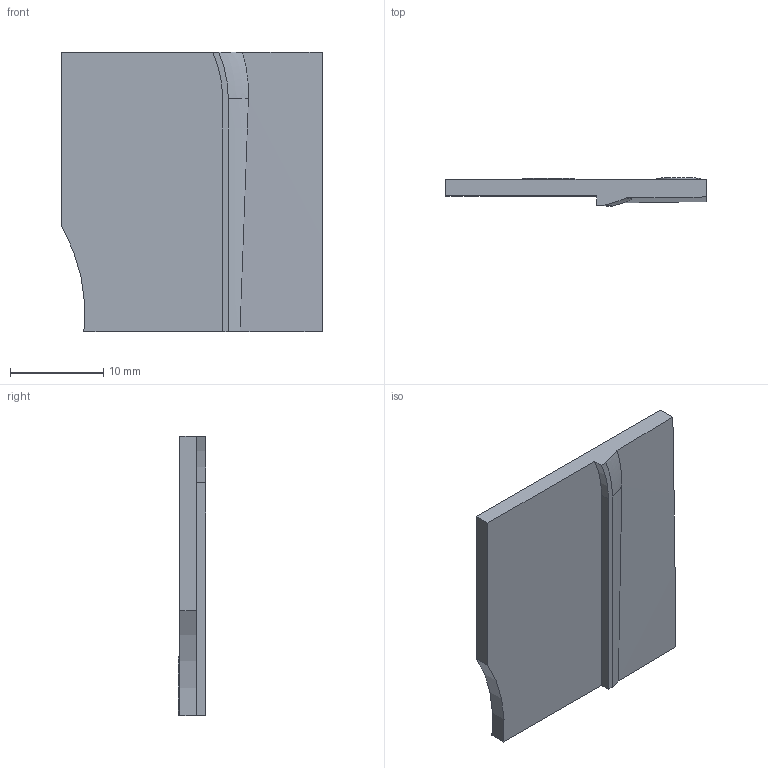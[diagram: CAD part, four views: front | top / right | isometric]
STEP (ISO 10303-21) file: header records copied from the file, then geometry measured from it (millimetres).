
FILE_DESCRIPTION(('Open CASCADE Model'),'2;1');
FILE_NAME('Open CASCADE Shape Model','2026-09-06T11:49:08',('Author'),( 'Open CASCADE'),'Open CASCADE STEP processor 7.8','build123d', 'Unknown');
FILE_SCHEMA(('AUTOMOTIVE_DESIGN { 1 0 10303 214 1 1 1 1 }'));
Length unit declared in the file: millimetre
Products named in the file (2): =>[0:1:1:2]; SOLID
Assembly tree (1 placements, depth 2):
  =>[0:1:1:2]
    SOLID
Bounding box: 28 x 3 x 30 mm (x, y, z)
Volume: 1613.2 mm3; surface area: 1901.9 mm2
Topology: 1 solids, 1 shells, 17 faces, 42 edges, 28 vertices
Faces by surface type: plane 10, cylinder 4, bspline 2, sphere 1
Full cylindrical faces by diameter (mm): 4.8 x1
Entity records: 1351 total; most frequent: CARTESIAN_POINT 570, DIRECTION 115, ORIENTED_EDGE 84, PCURVE 84, DEFINITIONAL_REPRESENTATION 84, LINE 54, VECTOR 54, B_SPLINE_CURVE_WITH_KNOTS 49
